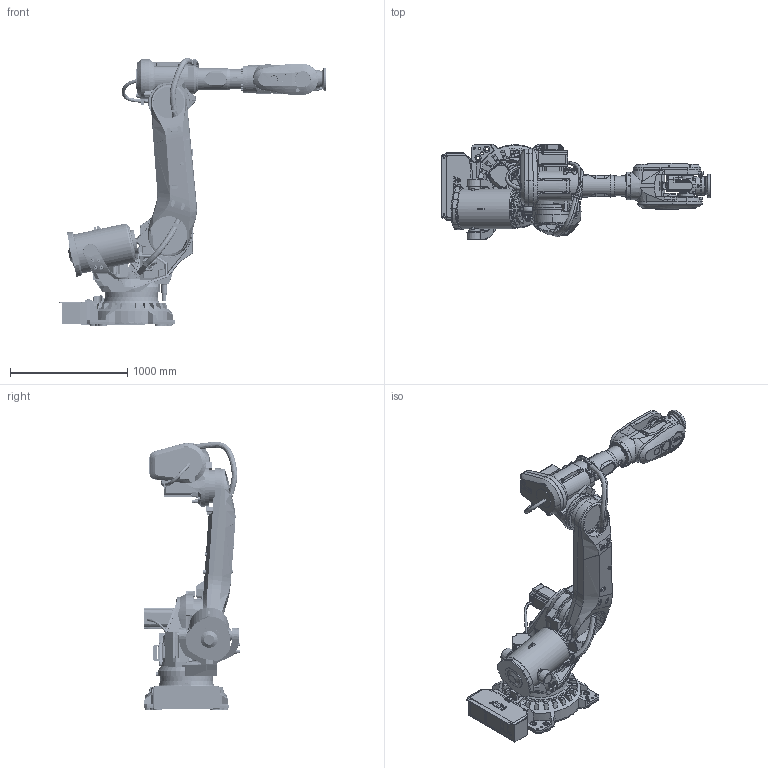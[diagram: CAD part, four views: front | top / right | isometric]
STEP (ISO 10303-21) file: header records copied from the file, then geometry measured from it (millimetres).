
FILE_DESCRIPTION(/* description */ (''),/* implementation_level */ '2;1');
FILE_NAME(/* name */ 'E:\组装完成的图纸\IRB 6700\IRB 6700-200-2.6\IRB 6700-200-2.6.stp',/* time_stamp */ '2023-11-04T19:27:22+08:00',/* author */ ('Administrator'),/* organization */ (''),/* preprocessor_version */ 'ST-DEVELOPER v16.5',/* originating_system */ 'Autodesk Inventor 2017',/* authorisation */ '');
FILE_SCHEMA (('AUTOMOTIVE_DESIGN { 1 0 10303 214 3 1 1 }'));
Products named in the file (16): 部件2; IRB6700_200-260_IRC5_rev00_CYLINDER_CAD; IRB6700_200-260_IRC5_rev00_LINK02m_CABLE; IRB6700_200-260_IRC5_rev00_LOGO1_CAD; IRB6700_200-260_IRC5_rev00_LOGO2_CAD; IRB6700_200-260_IRC5_rev00_LOGO3_CAD; IRB6700_200-260_IRC5_rev00_ROD_CAD; IRB6700_200-260_IRC5_rev01_LINK01m_CABLE; IRB6700_200-260_IRC5_rev01_LINK02_CAD; IRB6700_200-260_IRC5_rev01_LINK03m_CABLE; IRB6700_200-260_IRC5_rev01_LINK04_CAD; IRB6700_200-260_IRC5_rev01_LINK06_CAD; IRB6700_200-260_IRC5_rev02_BASE_CAD; IRB6700_200-260_IRC5_rev02_LINK03_CAD; IRB6700_200-260_IRC5_rev02_LINK05_CAD; IRB6700_200-260_IRC5_rev03_LINK01_CAD
Assembly tree (15 placements, depth 2):
  部件2
    IRB6700_200-260_IRC5_rev00_CYLINDER_CAD
    IRB6700_200-260_IRC5_rev00_LINK02m_CABLE
    IRB6700_200-260_IRC5_rev00_LOGO1_CAD
    IRB6700_200-260_IRC5_rev00_LOGO2_CAD
    IRB6700_200-260_IRC5_rev00_LOGO3_CAD
    IRB6700_200-260_IRC5_rev00_ROD_CAD
    IRB6700_200-260_IRC5_rev01_LINK01m_CABLE
    IRB6700_200-260_IRC5_rev01_LINK02_CAD
    IRB6700_200-260_IRC5_rev01_LINK03m_CABLE
    IRB6700_200-260_IRC5_rev01_LINK04_CAD
    IRB6700_200-260_IRC5_rev01_LINK06_CAD
    IRB6700_200-260_IRC5_rev02_BASE_CAD
    IRB6700_200-260_IRC5_rev02_LINK03_CAD
    IRB6700_200-260_IRC5_rev02_LINK05_CAD
    IRB6700_200-260_IRC5_rev03_LINK01_CAD
Bounding box: 2289.5 x 816 x 2287.51 mm (x, y, z)
Volume: 426636664.5 mm3; surface area: 12768941.8 mm2
Topology: 16 solids, 22 shells, 5306 faces, 14039 edges, 9123 vertices
Faces by surface type: plane 3349, cylinder 1082, cone 470, bspline 379, torus 21, sphere 5
Full cylindrical faces by diameter (mm): 3.3 x1, 5 x17, 6 x14, 6.5 x4, 6.6 x9, 6.8 x12, 7 x16, 7.1 x2, 7.5 x8, 8 x4, 8.3 x4, 8.5 x6, 8.6 x4, 8.8 x4, 9 x5, 9.5 x14, 10 x4, 10.2 x39, 10.8 x1, 11.05 x4, 12 x1, 12.5 x2, 13 x5, 14 x1, 15.5 x1, 16 x4, 16.3 x1, 17 x4, 17.5 x8, 17.583 x1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
Entity records: 234035 total; most frequent: CARTESIAN_POINT 105782, ORIENTED_EDGE 26688, DIRECTION 25043, EDGE_CURVE 13344, VERTEX_POINT 8968, AXIS2_PLACEMENT_3D 8456, LINE 8131, VECTOR 8131
